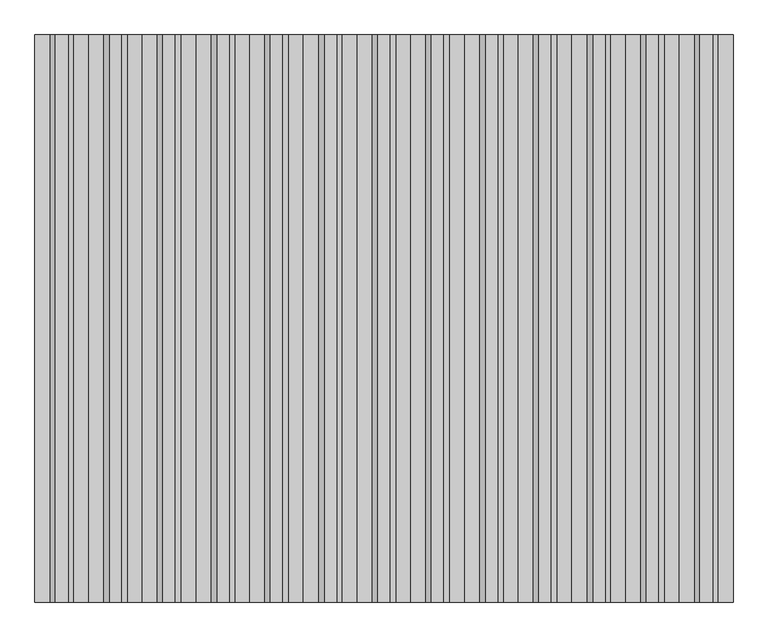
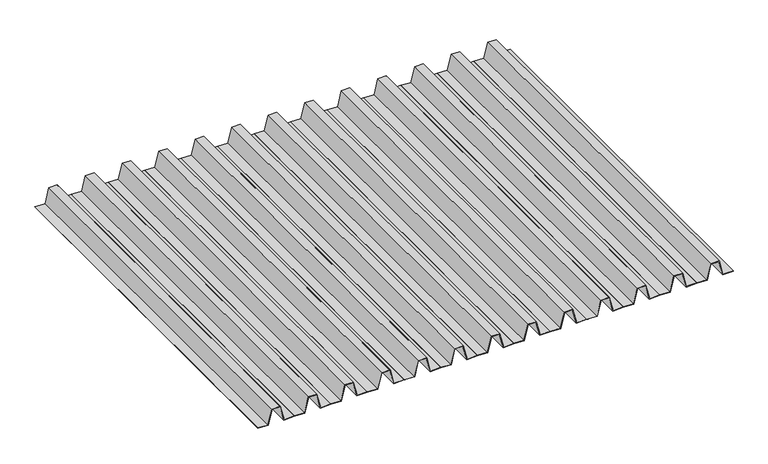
"""IFC4 building model written with IfcOpenShell, lengths in millimetres: proxy geometry, Renson_Amani_Fixed_Roof : Renson_Amani_Fixed_Roof."""

from ifc_helpers import new_model, si_unit, frame, origin, place, context, project, spatial, polyline, outline, extrude, source, transform, mapped, element, save


def generic_models_098ad460(model_context):
    return source(origin(), model_context, "Body", "SweptSolid", [
        extrude(outline(polyline([(2416.1350727, 3000.0), (2413.1322147, 3000.0), (2410.0, 3071.7403502), (2516.0797384, 3098.1893092), (2516.0797384, 3151.8176159), (2410.0, 3178.2596498), (2413.1322147, 3250.0), (2416.1350727, 3250.0), (2413.1040587, 3180.577555), (2519.0797384, 3154.1614661), (2519.0797384, 3095.845459), (2413.1040587, 3069.422445), (2416.1350727, 3000.0)])), frame((0.0, 0.0, 0.0), z_axis=(0.0, 1.0, 0.0), x_axis=(0.0, 0.0, 1.0)), (0.0, 0.0, 1.0), 2640.0),
        extrude(outline(polyline([(2416.1350727, 2750.0), (2413.1322147, 2750.0), (2410.0, 2821.7403502), (2516.0797384, 2848.1893092), (2516.0797384, 2901.8176159), (2410.0, 2928.2596498), (2413.1322147, 3000.0), (2416.1350727, 3000.0), (2413.1040587, 2930.577555), (2519.0797384, 2904.1614661), (2519.0797384, 2845.845459), (2413.1040587, 2819.422445), (2416.1350727, 2750.0)])), frame((0.0, 0.0, 0.0), z_axis=(0.0, 1.0, 0.0), x_axis=(0.0, 0.0, 1.0)), (0.0, 0.0, 1.0), 2640.0),
        extrude(outline(polyline([(2416.1350727, 2500.0), (2413.1322147, 2500.0), (2410.0, 2571.7403502), (2516.0797384, 2598.1893092), (2516.0797384, 2651.8176159), (2410.0, 2678.2596498), (2413.1322147, 2750.0), (2416.1350727, 2750.0), (2413.1040587, 2680.577555), (2519.0797384, 2654.1614661), (2519.0797384, 2595.845459), (2413.1040587, 2569.422445), (2416.1350727, 2500.0)])), frame((0.0, 0.0, 0.0), z_axis=(0.0, 1.0, 0.0), x_axis=(0.0, 0.0, 1.0)), (0.0, 0.0, 1.0), 2640.0),
        extrude(outline(polyline([(2416.1350727, 2250.0), (2413.1322147, 2250.0), (2410.0, 2321.7403502), (2516.0797384, 2348.1893092), (2516.0797384, 2401.8176159), (2410.0, 2428.2596498), (2413.1322147, 2500.0), (2416.1350727, 2500.0), (2413.1040587, 2430.577555), (2519.0797384, 2404.1614661), (2519.0797384, 2345.845459), (2413.1040587, 2319.422445), (2416.1350727, 2250.0)])), frame((0.0, 0.0, 0.0), z_axis=(0.0, 1.0, 0.0), x_axis=(0.0, 0.0, 1.0)), (0.0, 0.0, 1.0), 2640.0),
        extrude(outline(polyline([(2416.1350727, 2000.0), (2413.1322147, 2000.0), (2410.0, 2071.7403502), (2516.0797384, 2098.1893092), (2516.0797384, 2151.8176159), (2410.0, 2178.2596498), (2413.1322147, 2250.0), (2416.1350727, 2250.0), (2413.1040587, 2180.577555), (2519.0797384, 2154.1614661), (2519.0797384, 2095.845459), (2413.1040587, 2069.422445), (2416.1350727, 2000.0)])), frame((0.0, 0.0, 0.0), z_axis=(0.0, 1.0, 0.0), x_axis=(0.0, 0.0, 1.0)), (0.0, 0.0, 1.0), 2640.0),
        extrude(outline(polyline([(2416.1350727, 1750.0), (2413.1322147, 1750.0), (2410.0, 1821.7403502), (2516.0797384, 1848.1893092), (2516.0797384, 1901.8176159), (2410.0, 1928.2596498), (2413.1322147, 2000.0), (2416.1350727, 2000.0), (2413.1040587, 1930.577555), (2519.0797384, 1904.1614661), (2519.0797384, 1845.845459), (2413.1040587, 1819.422445), (2416.1350727, 1750.0)])), frame((0.0, 0.0, 0.0), z_axis=(0.0, 1.0, 0.0), x_axis=(0.0, 0.0, 1.0)), (0.0, 0.0, 1.0), 2640.0),
        extrude(outline(polyline([(2416.1350727, 1500.0), (2413.1322147, 1500.0), (2410.0, 1571.7403502), (2516.0797384, 1598.1893092), (2516.0797384, 1651.8176159), (2410.0, 1678.2596498), (2413.1322147, 1750.0), (2416.1350727, 1750.0), (2413.1040587, 1680.577555), (2519.0797384, 1654.1614661), (2519.0797384, 1595.845459), (2413.1040587, 1569.422445), (2416.1350727, 1500.0)])), frame((0.0, 0.0, 0.0), z_axis=(0.0, 1.0, 0.0), x_axis=(0.0, 0.0, 1.0)), (0.0, 0.0, 1.0), 2640.0),
        extrude(outline(polyline([(2416.1350727, 1250.0), (2413.1322147, 1250.0), (2410.0, 1321.7403502), (2516.0797384, 1348.1893092), (2516.0797384, 1401.8176159), (2410.0, 1428.2596498), (2413.1322147, 1500.0), (2416.1350727, 1500.0), (2413.1040587, 1430.577555), (2519.0797384, 1404.1614661), (2519.0797384, 1345.845459), (2413.1040587, 1319.422445), (2416.1350727, 1250.0)])), frame((0.0, 0.0, 0.0), z_axis=(0.0, 1.0, 0.0), x_axis=(0.0, 0.0, 1.0)), (0.0, 0.0, 1.0), 2640.0),
        extrude(outline(polyline([(2416.1350727, 1000.0), (2413.1322147, 1000.0), (2410.0, 1071.7403502), (2516.0797384, 1098.1893092), (2516.0797384, 1151.8176159), (2410.0, 1178.2596498), (2413.1322147, 1250.0), (2416.1350727, 1250.0), (2413.1040587, 1180.577555), (2519.0797384, 1154.1614661), (2519.0797384, 1095.845459), (2413.1040587, 1069.422445), (2416.1350727, 1000.0)])), frame((0.0, 0.0, 0.0), z_axis=(0.0, 1.0, 0.0), x_axis=(0.0, 0.0, 1.0)), (0.0, 0.0, 1.0), 2640.0),
        extrude(outline(polyline([(2416.1350727, 750.0), (2413.1322147, 750.0), (2410.0, 821.7403502), (2516.0797384, 848.1893092), (2516.0797384, 901.8176159), (2410.0, 928.2596498), (2413.1322147, 1000.0), (2416.1350727, 1000.0), (2413.1040587, 930.577555), (2519.0797384, 904.1614661), (2519.0797384, 845.845459), (2413.1040587, 819.422445), (2416.1350727, 750.0)])), frame((0.0, 0.0, 0.0), z_axis=(0.0, 1.0, 0.0), x_axis=(0.0, 0.0, 1.0)), (0.0, 0.0, 1.0), 2640.0),
        extrude(outline(polyline([(2416.1350727, 500.0), (2413.1322147, 500.0), (2410.0, 571.7403502), (2516.0797384, 598.1893092), (2516.0797384, 651.8176159), (2410.0, 678.2596498), (2413.1322147, 750.0), (2416.1350727, 750.0), (2413.1040587, 680.577555), (2519.0797384, 654.1614661), (2519.0797384, 595.845459), (2413.1040587, 569.422445), (2416.1350727, 500.0)])), frame((0.0, 0.0, 0.0), z_axis=(0.0, 1.0, 0.0), x_axis=(0.0, 0.0, 1.0)), (0.0, 0.0, 1.0), 2640.0),
        extrude(outline(polyline([(2416.1350727, 250.0), (2413.1322147, 250.0), (2410.0, 321.7403502), (2516.0797384, 348.1893092), (2516.0797384, 401.8176159), (2410.0, 428.2596498), (2413.1322147, 500.0), (2416.1350727, 500.0), (2413.1040587, 430.577555), (2519.0797384, 404.1614661), (2519.0797384, 345.845459), (2413.1040587, 319.422445), (2416.1350727, 250.0)])), frame((0.0, 0.0, 0.0), z_axis=(0.0, 1.0, 0.0), x_axis=(0.0, 0.0, 1.0)), (0.0, 0.0, 1.0), 2640.0),
        extrude(outline(polyline([(2416.1350727, 0.0), (2413.1322147, 0.0), (2410.0, 71.7403502), (2516.0797384, 98.1893092), (2516.0797384, 151.8176159), (2410.0, 178.2596498), (2413.1322147, 250.0), (2416.1350727, 250.0), (2413.1040587, 180.577555), (2519.0797384, 154.1614661), (2519.0797384, 95.845459), (2413.1040587, 69.422445), (2416.1350727, 0.0)])), frame((0.0, 0.0, 0.0), z_axis=(0.0, 1.0, 0.0), x_axis=(0.0, 0.0, 1.0)), (0.0, 0.0, 1.0), 2640.0),
    ])


if __name__ == "__main__":
    model = new_model("IFC4")
    model_context = context("Model", 3, world=origin())
    ifc_project = project(units=[si_unit("LENGTHUNIT", "METRE", prefix="MILLI")], contexts=[model_context])
    site = spatial("IfcSite", under=ifc_project)
    building = spatial("IfcBuilding", under=site)
    placement = place(None, origin())
    generic_models_shape = generic_models_098ad460(model_context)
    element("IfcBuildingElementProxy", 1, Name="Renson_Amani_Fixed_Roof : Renson_Amani_Fixed_Roof", ObjectType="Renson_Amani_Fixed_Roof : Renson_Amani_Fixed_Roof", at=placement, inside=building, context=model_context, shape_type="MappedRepresentation", body=[
        mapped(generic_models_shape, transform((0.0, 0.0, 0.0), x_axis=(1.0, 0.0, 0.0), y_axis=(0.0, 1.0, 0.0), z_axis=(0.0, 0.0, 1.0))),
    ])
    save(model, "model.ifc")
